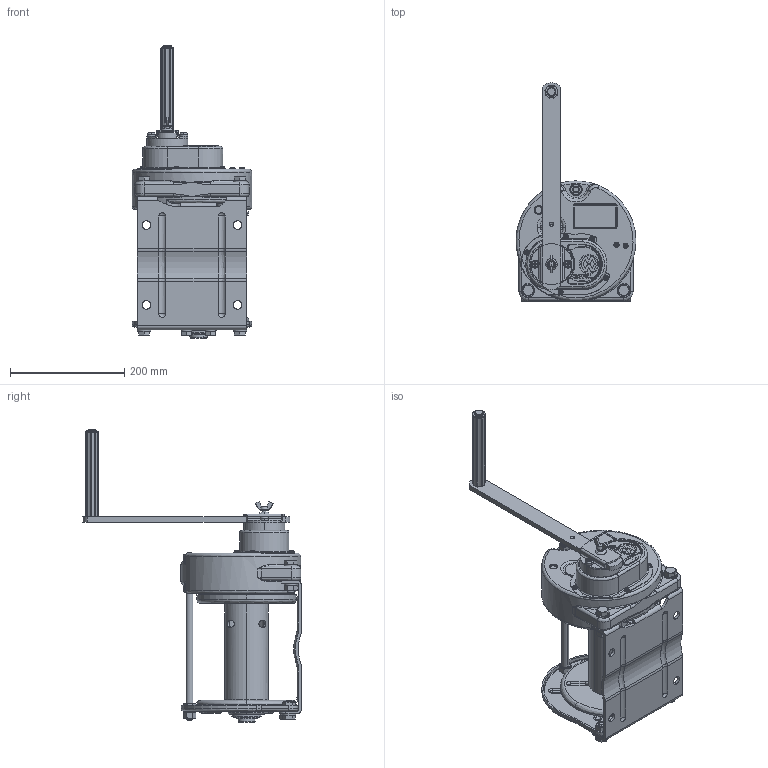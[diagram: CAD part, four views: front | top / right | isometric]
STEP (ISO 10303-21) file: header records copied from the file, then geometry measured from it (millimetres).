
FILE_DESCRIPTION( (''), '2;1');
FILE_NAME ('ST-10-SI.stp','2024-01-09T16:31:20',(''),(''),'spGate 19.8.2 (****-****-****-****)','','');
FILE_SCHEMA (('AUTOMOTIVE_DESIGN'));
Length unit declared in the file: millimetre
Products named in the file (3): Assembly; ST-10-SI-prt0; ST-10-SI-prt1
Assembly tree (2 placements, depth 2):
  Assembly
    ST-10-SI-prt0
    ST-10-SI-prt1
Bounding box: 209.96 x 382.43 x 513.1 mm (x, y, z)
Volume: 3938987 mm3; surface area: 690796.6 mm2
Topology: 2 solids, 2 shells, 2563 faces, 6580 edges, 4109 vertices
Faces by surface type: plane 1233, cylinder 812, bspline 456, sphere 62
Entity records: 140474 total; most frequent: CARTESIAN_POINT 27439, ORIENTED_EDGE 13064, DIRECTION 12539, COLOUR_RGB 9097, PRESENTATION_STYLE_ASSIGNMENT 9097, STYLED_ITEM 9097, EDGE_CURVE 6532, DRAUGHTING_PRE_DEFINED_CURVE_FONT 6532
